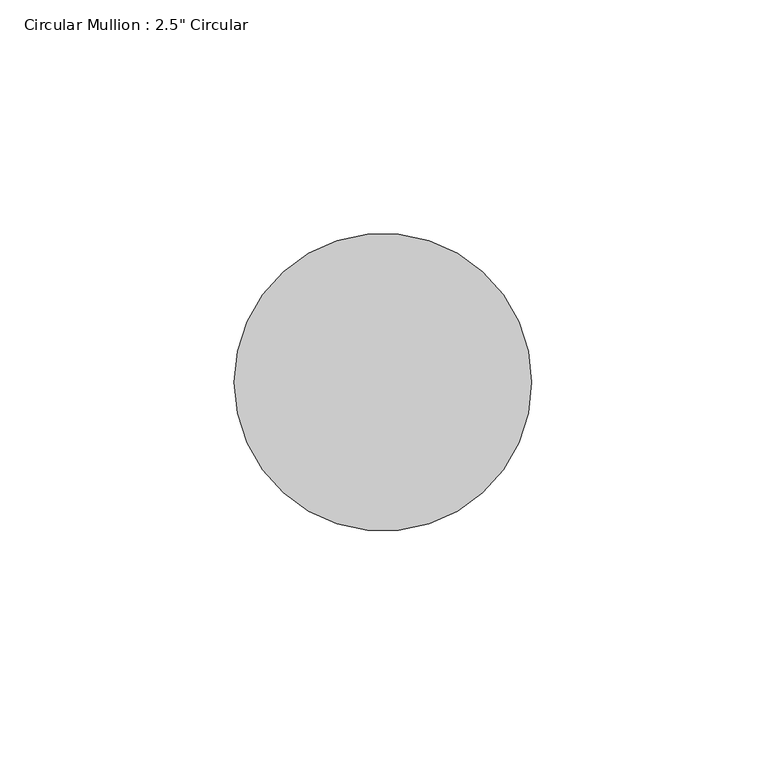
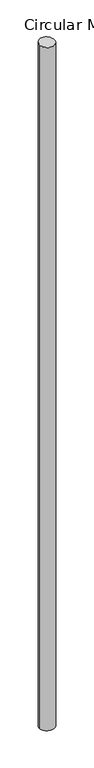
"""IFC4 building model written with IfcOpenShell, lengths in millimetres: member geometry."""

from ifc_helpers import new_model, si_unit, frame, origin, origin_with_axes, place, context, project, spatial, ellipse_curve, source, transform, mapped, element, save
from ifc_brep_helpers import plane_surface, cylinder_surface, advanced_brep


def member_7166e3e3(model_context):
    return source(origin(), model_context, "Body", "AdvancedBrep", [
        advanced_brep(
        [(-31.75, 0.0, 0.340164), (31.75, 0.0, -0.340164), (31.75, 0.0, -3031.9674903), (-31.75, 0.0, -3032.4207143)],
        [
            (0, 1, ellipse_curve(frame((0.0, 0.0, 0.0), z_axis=(-0.01068638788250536, 0.07071848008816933, -0.9974390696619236), x_axis=(-0.14903272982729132, 0.9862423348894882, 0.07152134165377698)), 31.8315183, 31.75)),
            (1, 2),
            (2, 3, ellipse_curve(frame((0.0, 0.0, -3032.1941023), z_axis=(-0.007127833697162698, 0.05122649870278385, 0.998661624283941), x_axis=(0.13763131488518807, -0.9891322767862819, 0.05172001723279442)), 31.7925504, 31.75)),
            (3, 0),
            (1, 0, ellipse_curve(frame((0.0, 0.0, 0.0), z_axis=(-0.01068638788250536, 0.07071848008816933, -0.9974390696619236), x_axis=(-0.14903272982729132, 0.9862423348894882, 0.07152134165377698)), 31.8315183, 31.75)),
            (3, 2, ellipse_curve(frame((0.0, 0.0, -3032.1941023), z_axis=(-0.007127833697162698, 0.05122649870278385, 0.998661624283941), x_axis=(0.13763131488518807, -0.9891322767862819, 0.05172001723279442)), 31.7925504, 31.75)),
        ],
        [
            cylinder_surface(origin_with_axes(), 31.75),
            plane_surface(frame((301.3784729, 45.5418054, 0.0), z_axis=(0.010686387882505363, -0.07071848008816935, 0.9974390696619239), x_axis=(0.14903272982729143, -0.9862423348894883, -0.07152134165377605))),
            plane_surface(frame((301.8915623, 42.0062449, -3032.1941023), z_axis=(0.007127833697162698, -0.05122649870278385, -0.998661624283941), x_axis=(0.13763131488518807, -0.9891322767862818, 0.051720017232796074))),
        ],
        [
            (0, [[1, 2, 3, 4]]),
            (0, [[5, -4, 6, -2]]),
            (1, [[-1, -5]]),
            (2, [[-6, -3]]),
        ],
    ),
    ])


if __name__ == "__main__":
    model = new_model("IFC4")
    model_context = context("Model", 3, world=origin())
    ifc_project = project(units=[si_unit("LENGTHUNIT", "METRE", prefix="MILLI")], contexts=[model_context])
    site = spatial("IfcSite", under=ifc_project)
    building = spatial("IfcBuilding", under=site)
    placement = place(None, origin())
    member_shape = member_7166e3e3(model_context)
    element("IfcMember", 1, ObjectType="Circular Mullion : 2.5\" Circular", at=placement, inside=building, context=model_context, shape_type="MappedRepresentation", body=[
        mapped(member_shape, transform((0.0, 0.0, 0.0), x_axis=(1.0, 0.0, 0.0), y_axis=(0.0, 1.0, 0.0), z_axis=(0.0, 0.0, 1.0))),
    ])
    save(model, "model.ifc")
